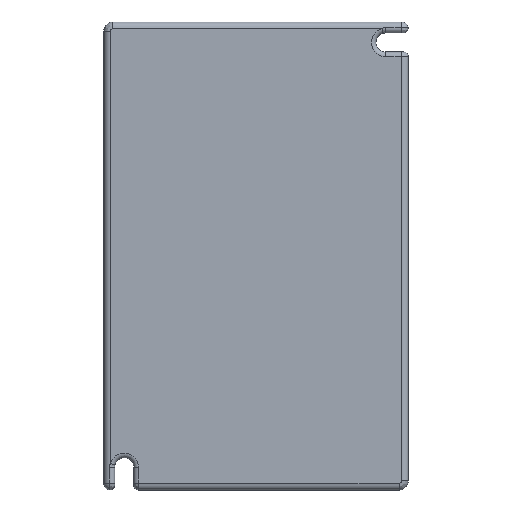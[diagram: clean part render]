
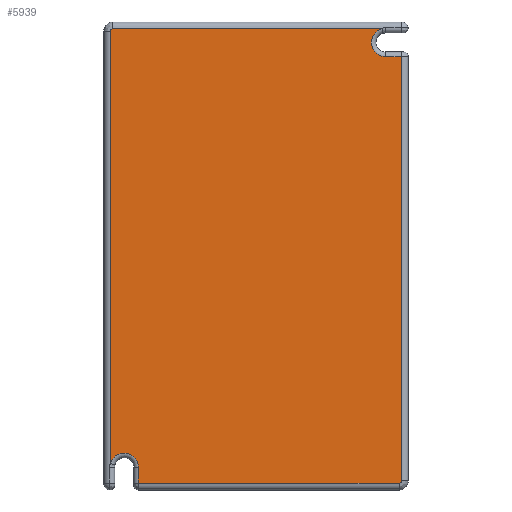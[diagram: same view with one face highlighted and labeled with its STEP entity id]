
A CAD part, front view. The second image highlights one B-rep face of the part: STEP entity #5939.
In plain terms, the highlighted planar face has unit normal (0, -1, 0).
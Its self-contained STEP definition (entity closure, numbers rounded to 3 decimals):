
#89=CARTESIAN_POINT('',(28.5,0.,47.));
#90=DIRECTION('',(0.,1.,0.));
#91=DIRECTION('',(0.,0.,-1.));
#92=AXIS2_PLACEMENT_3D('',#89,#90,#91);
#94=DIRECTION('',(-1.,0.,0.));
#95=VECTOR('',#94,3.5);
#96=CARTESIAN_POINT('',(32.,0.,43.9));
#97=LINE('',#96,#95);
#98=DIRECTION('',(0.,0.,1.));
#99=VECTOR('',#98,93.4);
#100=CARTESIAN_POINT('',(32.,0.,-49.5));
#101=LINE('',#100,#99);
#102=CARTESIAN_POINT('',(31.5,0.,-49.5));
#103=DIRECTION('',(0.,1.,0.));
#104=DIRECTION('',(1.,0.,0.));
#105=AXIS2_PLACEMENT_3D('',#102,#103,#104);
#107=DIRECTION('',(1.,0.,0.));
#108=VECTOR('',#107,57.4);
#109=CARTESIAN_POINT('',(-25.9,0.,-50.));
#110=LINE('',#109,#108);
#111=DIRECTION('',(0.,0.,-1.));
#112=VECTOR('',#111,3.5);
#113=CARTESIAN_POINT('',(-25.9,0.,-46.5));
#114=LINE('',#113,#112);
#115=CARTESIAN_POINT('',(-29.,0.,-46.5));
#116=DIRECTION('',(0.,1.,0.));
#117=DIRECTION('',(-0.968,0.,0.252));
#118=AXIS2_PLACEMENT_3D('',#115,#116,#117);
#120=DIRECTION('',(0.,0.,-1.));
#121=VECTOR('',#120,95.219);
#122=CARTESIAN_POINT('',(-32.,0.,49.5));
#123=LINE('',#122,#121);
#124=CARTESIAN_POINT('',(-31.5,0.,49.5));
#125=DIRECTION('',(0.,1.,0.));
#126=DIRECTION('',(-1.,0.,0.));
#127=AXIS2_PLACEMENT_3D('',#124,#125,#126);
#129=DIRECTION('',(-1.,0.,0.));
#130=VECTOR('',#129,59.219);
#131=CARTESIAN_POINT('',(27.719,0.,50.));
#132=LINE('',#131,#130);
#147=CARTESIAN_POINT('',(27.719,0.,50.));
#5614=CARTESIAN_POINT('',(-31.5,0.,50.));
#5615=VERTEX_POINT('',#5614);
#5616=CARTESIAN_POINT('',(-32.,0.,49.5));
#5617=VERTEX_POINT('',#5616);
#5618=CARTESIAN_POINT('',(31.5,0.,-50.));
#5619=VERTEX_POINT('',#5618);
#5620=CARTESIAN_POINT('',(32.,0.,-49.5));
#5621=VERTEX_POINT('',#5620);
#5856=VERTEX_POINT('',#147);
#5858=CARTESIAN_POINT('',(28.5,0.,43.9));
#5859=VERTEX_POINT('',#5858);
#5862=CARTESIAN_POINT('',(32.,0.,43.9));
#5863=VERTEX_POINT('',#5862);
#5882=CARTESIAN_POINT('',(-25.9,0.,-50.));
#5883=VERTEX_POINT('',#5882);
#5886=CARTESIAN_POINT('',(-25.9,0.,-46.5));
#5887=VERTEX_POINT('',#5886);
#5890=CARTESIAN_POINT('',(-32.,0.,-45.719));
#5891=VERTEX_POINT('',#5890);
#5912=CARTESIAN_POINT('',(0.,0.,0.));
#5913=DIRECTION('',(0.,1.,0.));
#5914=DIRECTION('',(1.,0.,0.));
#5915=AXIS2_PLACEMENT_3D('',#5912,#5913,#5914);
#5916=PLANE('',#5915);
#5918=ORIENTED_EDGE('',*,*,#5917,.F.);
#5920=ORIENTED_EDGE('',*,*,#5919,.F.);
#5922=ORIENTED_EDGE('',*,*,#5921,.F.);
#5924=ORIENTED_EDGE('',*,*,#5923,.T.);
#5926=ORIENTED_EDGE('',*,*,#5925,.F.);
#5928=ORIENTED_EDGE('',*,*,#5927,.F.);
#5930=ORIENTED_EDGE('',*,*,#5929,.F.);
#5932=ORIENTED_EDGE('',*,*,#5931,.F.);
#5934=ORIENTED_EDGE('',*,*,#5933,.T.);
#5936=ORIENTED_EDGE('',*,*,#5935,.F.);
#5937=EDGE_LOOP('',(#5918,#5920,#5922,#5924,#5926,#5928,#5930,#5932,#5934,
#5936));
#5938=FACE_OUTER_BOUND('',#5937,.F.);
#93=CIRCLE('',#92,3.1);
#106=CIRCLE('',#105,0.5);
#119=CIRCLE('',#118,3.1);
#128=CIRCLE('',#127,0.5);
#5917=EDGE_CURVE('',#5859,#5856,#93,.T.);
#5919=EDGE_CURVE('',#5863,#5859,#97,.T.);
#5921=EDGE_CURVE('',#5621,#5863,#101,.T.);
#5923=EDGE_CURVE('',#5621,#5619,#106,.T.);
#5925=EDGE_CURVE('',#5883,#5619,#110,.T.);
#5927=EDGE_CURVE('',#5887,#5883,#114,.T.);
#5929=EDGE_CURVE('',#5891,#5887,#119,.T.);
#5931=EDGE_CURVE('',#5617,#5891,#123,.T.);
#5933=EDGE_CURVE('',#5617,#5615,#128,.T.);
#5935=EDGE_CURVE('',#5856,#5615,#132,.T.);
#5939=ADVANCED_FACE('',(#5938),#5916,.F.);
